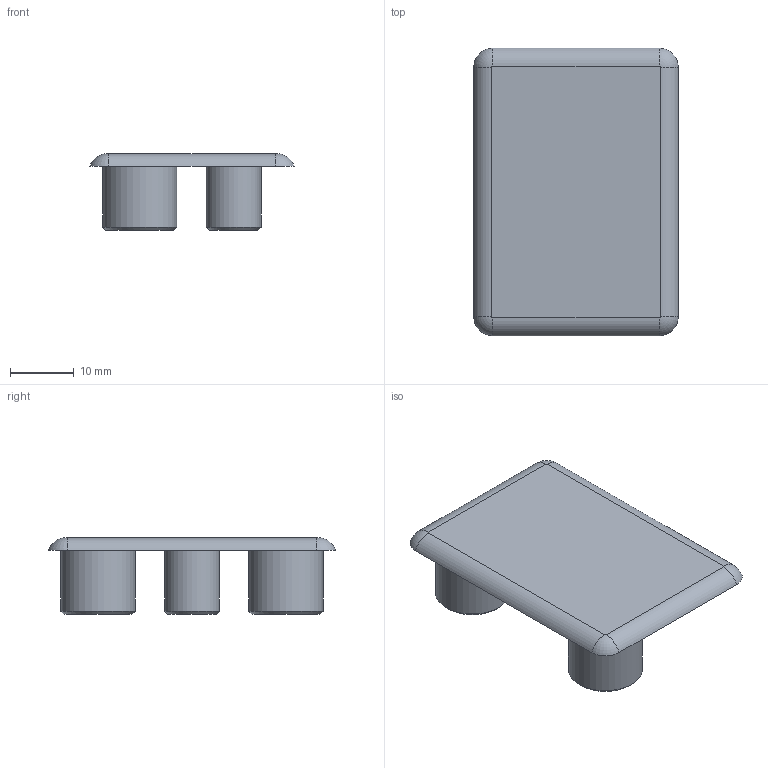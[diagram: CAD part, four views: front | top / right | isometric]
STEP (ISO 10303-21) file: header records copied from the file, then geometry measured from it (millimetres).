
FILE_DESCRIPTION (( 'STEP AP214' ), '1' );
FILE_NAME ('SL01004.step', '2024-12-03T16:30:02', ( '' ), ( '' ), 'SwSTEP 2.0', 'SolidWorks 2023', '' );
FILE_SCHEMA (( 'AUTOMOTIVE_DESIGN' ));
Length unit declared in the file: millimetre
Products named in the file (1): SL01004
Bounding box: 32 x 45 x 12 mm (x, y, z)
Volume: 3369.6 mm3; surface area: 4807.4 mm2
Topology: 1 solids, 1 shells, 25 faces, 51 edges, 34 vertices
Faces by surface type: cylinder 10, plane 8, torus 4, cone 3
Full cylindrical faces by diameter (mm): 7 x1, 8.6 x1, 10 x2, 11.6 x2
Entity records: 627 total; most frequent: DIRECTION 122, CARTESIAN_POINT 96, ORIENTED_EDGE 78, AXIS2_PLACEMENT_3D 57, EDGE_LOOP 40, EDGE_CURVE 39, VERTEX_POINT 31, FACE_OUTER_BOUND 31
